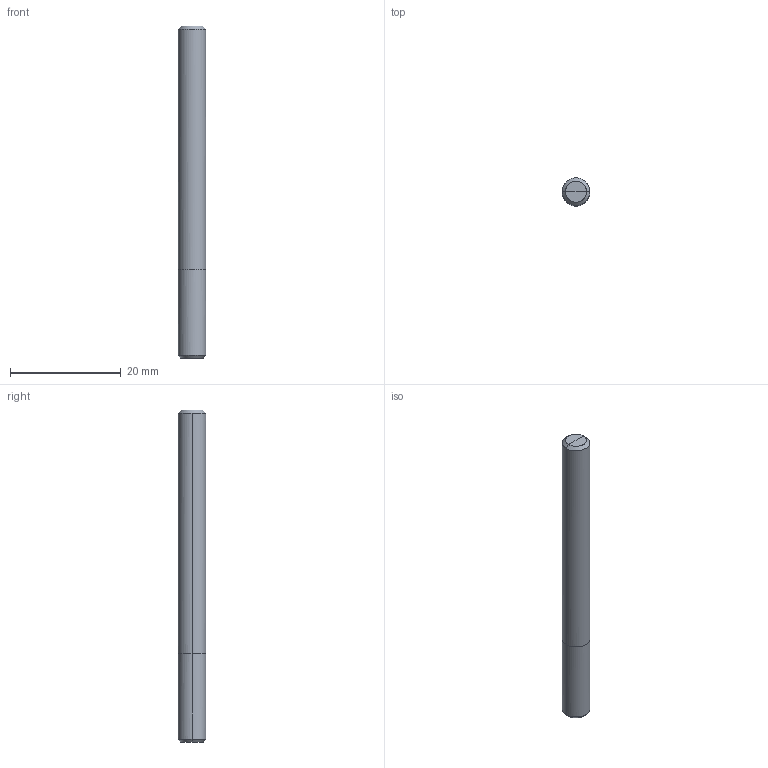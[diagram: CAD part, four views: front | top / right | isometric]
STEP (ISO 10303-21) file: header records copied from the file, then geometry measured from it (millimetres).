
FILE_DESCRIPTION(/* description */ (''),/* implementation_level */ '2;1');
FILE_NAME(/*name*/ '180-1969-10-LG',/*time_stamp*/'2021-4-22T9:7:36',/*author*/ ('ISBE GmbH'),/*organization*/ ('ISBE GmbH'),/*preprocessor_version*/ 'STEP IO v1.0',/*originating_system*/ '',/*authorisation*/ '');
FILE_SCHEMA (('AUTOMOTIVE_DESIGN'));
Length unit declared in the file: millimetre
Products named in the file (1): Document
Bounding box: 5 x 5 x 60 mm (x, y, z)
Surface area: 1012 mm2 (no closed solid volume)
Topology: 0 solids, 16 shells, 16 faces, 65 edges, 58 vertices
Faces by surface type: bspline 16
Entity records: 584 total; most frequent: CARTESIAN_POINT 293, VERTEX_POINT 56, EDGE_CURVE 56, ORIENTED_EDGE 56, DIRECTION 16, EDGE_LOOP 16, FACE_OUTER_BOUND 16, ADVANCED_FACE 16
